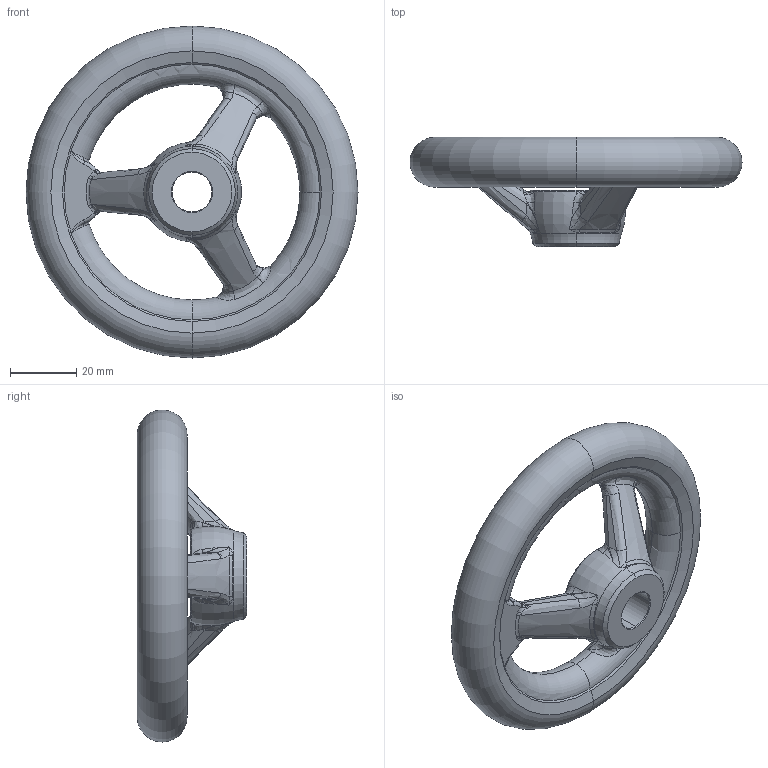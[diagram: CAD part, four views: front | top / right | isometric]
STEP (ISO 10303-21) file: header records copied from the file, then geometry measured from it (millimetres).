
FILE_DESCRIPTION (( 'STEP AP203' ), '1' );
FILE_NAME ('din950_a4_100x12.step', '2010-03-23T09:55:15', ( '_' ), ( '_' ), 'SwSTEP 2.0', 'SolidWorks 2010', '' );
FILE_SCHEMA (( 'CONFIG_CONTROL_DESIGN' ));
Length unit declared in the file: millimetre
Products named in the file (1): din950_a4_100x12
Bounding box: 100 x 33 x 100 mm (x, y, z)
Volume: 67944.8 mm3; surface area: 18220.2 mm2
Topology: 1 solids, 1 shells, 195 faces, 474 edges, 253 vertices
Faces by surface type: bspline 130, torus 21, cone 18, plane 10, sphere 8, cylinder 8
Entity records: 22914 total; most frequent: CARTESIAN_POINT 19162, ORIENTED_EDGE 904, DIRECTION 545, EDGE_CURVE 452, AXIS2_PLACEMENT_3D 260, VERTEX_POINT 253, B_SPLINE_CURVE_WITH_KNOTS 229, EDGE_LOOP 197
